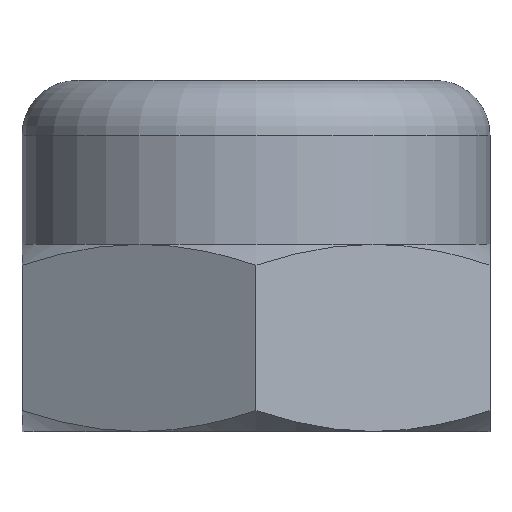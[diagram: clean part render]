
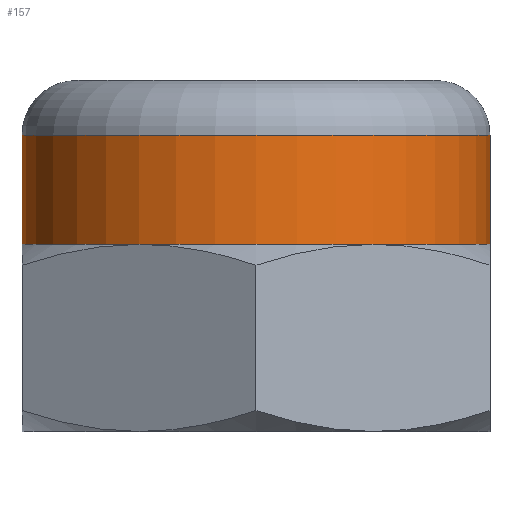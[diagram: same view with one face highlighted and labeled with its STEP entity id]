
A CAD part, front view. The second image highlights one B-rep face of the part: STEP entity #157.
In plain terms, the highlighted cylindrical face has radius 4 mm (diameter 8 mm), a partial arc.
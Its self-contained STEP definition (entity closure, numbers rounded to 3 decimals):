
#11 = VERTEX_POINT ( 'NONE', #431 ) ;
#60 = AXIS2_PLACEMENT_3D ( 'NONE', #899, #716, #340 ) ;
#63 = LINE ( 'NONE', #510, #854 ) ;
#65 = VERTEX_POINT ( 'NONE', #306 ) ;
#66 = CIRCLE ( 'NONE', #196, 4. ) ;
#96 = VECTOR ( 'NONE', #439, 1000. ) ;
#132 = CARTESIAN_POINT ( 'NONE',  ( 0., 0., 0. ) ) ;
#155 = EDGE_CURVE ( 'NONE', #65, #436, #66, .T. ) ;
#157 = ADVANCED_FACE ( 'NONE', ( #1019 ), #949, .T. ) ;
#161 = DIRECTION ( 'NONE',  ( 0., 0., 1. ) ) ;
#162 = ORIENTED_EDGE ( 'NONE', *, *, #585, .F. ) ;
#196 = AXIS2_PLACEMENT_3D ( 'NONE', #851, #873, #222 ) ;
#219 = DIRECTION ( 'NONE',  ( -1., 0., 0. ) ) ;
#222 = DIRECTION ( 'NONE',  ( -1., 0., 0. ) ) ;
#240 = CARTESIAN_POINT ( 'NONE',  ( 0., 0., 9.481 ) ) ;
#260 = CARTESIAN_POINT ( 'NONE',  ( -4., 0., 1.867 ) ) ;
#262 = ORIENTED_EDGE ( 'NONE', *, *, #304, .F. ) ;
#286 = CIRCLE ( 'NONE', #945, 4. ) ;
#287 = DIRECTION ( 'NONE',  ( 0., 0., -1. ) ) ;
#302 = DIRECTION ( 'NONE',  ( -1., 0., 0. ) ) ;
#304 = EDGE_CURVE ( 'NONE', #550, #822, #694, .T. ) ;
#306 = CARTESIAN_POINT ( 'NONE',  ( 2., -3.464, 0. ) ) ;
#318 = CARTESIAN_POINT ( 'NONE',  ( 0., 0., 0. ) ) ;
#340 = DIRECTION ( 'NONE',  ( 1., 0., 0. ) ) ;
#364 = CARTESIAN_POINT ( 'NONE',  ( 4., 0., 9.481 ) ) ;
#375 = AXIS2_PLACEMENT_3D ( 'NONE', #318, #616, #302 ) ;
#395 = EDGE_CURVE ( 'NONE', #11, #65, #657, .T. ) ;
#431 = CARTESIAN_POINT ( 'NONE',  ( 4., 0., 0. ) ) ;
#436 = VERTEX_POINT ( 'NONE', #788 ) ;
#439 = DIRECTION ( 'NONE',  ( 0., 0., 1. ) ) ;
#510 = CARTESIAN_POINT ( 'NONE',  ( -4., 0., 9.481 ) ) ;
#528 = DIRECTION ( 'NONE',  ( 0., 0., 1. ) ) ;
#529 = EDGE_LOOP ( 'NONE', ( #162, #989, #754, #537, #609, #262 ) ) ;
#537 = ORIENTED_EDGE ( 'NONE', *, *, #395, .F. ) ;
#547 = AXIS2_PLACEMENT_3D ( 'NONE', #240, #161, #807 ) ;
#550 = VERTEX_POINT ( 'NONE', #260 ) ;
#585 = EDGE_CURVE ( 'NONE', #876, #550, #63, .T. ) ;
#609 = ORIENTED_EDGE ( 'NONE', *, *, #891, .T. ) ;
#616 = DIRECTION ( 'NONE',  ( 0., 0., -1. ) ) ;
#657 = CIRCLE ( 'NONE', #375, 4. ) ;
#694 = CIRCLE ( 'NONE', #60, 4. ) ;
#716 = DIRECTION ( 'NONE',  ( 0., 0., 1. ) ) ;
#745 = LINE ( 'NONE', #364, #96 ) ;
#752 = CARTESIAN_POINT ( 'NONE',  ( -4., 0., 0. ) ) ;
#754 = ORIENTED_EDGE ( 'NONE', *, *, #155, .F. ) ;
#788 = CARTESIAN_POINT ( 'NONE',  ( -2., -3.464, 0. ) ) ;
#807 = DIRECTION ( 'NONE',  ( 1., 0., 0. ) ) ;
#822 = VERTEX_POINT ( 'NONE', #930 ) ;
#838 = EDGE_CURVE ( 'NONE', #436, #876, #286, .T. ) ;
#851 = CARTESIAN_POINT ( 'NONE',  ( 0., 0., 0. ) ) ;
#854 = VECTOR ( 'NONE', #528, 1000. ) ;
#873 = DIRECTION ( 'NONE',  ( 0., 0., -1. ) ) ;
#876 = VERTEX_POINT ( 'NONE', #752 ) ;
#891 = EDGE_CURVE ( 'NONE', #11, #822, #745, .T. ) ;
#899 = CARTESIAN_POINT ( 'NONE',  ( 0., 0., 1.867 ) ) ;
#930 = CARTESIAN_POINT ( 'NONE',  ( 4., 0., 1.867 ) ) ;
#945 = AXIS2_PLACEMENT_3D ( 'NONE', #132, #287, #219 ) ;
#949 = CYLINDRICAL_SURFACE ( 'NONE', #547, 4. ) ;
#989 = ORIENTED_EDGE ( 'NONE', *, *, #838, .F. ) ;
#1019 = FACE_OUTER_BOUND ( 'NONE', #529, .T. ) ;
